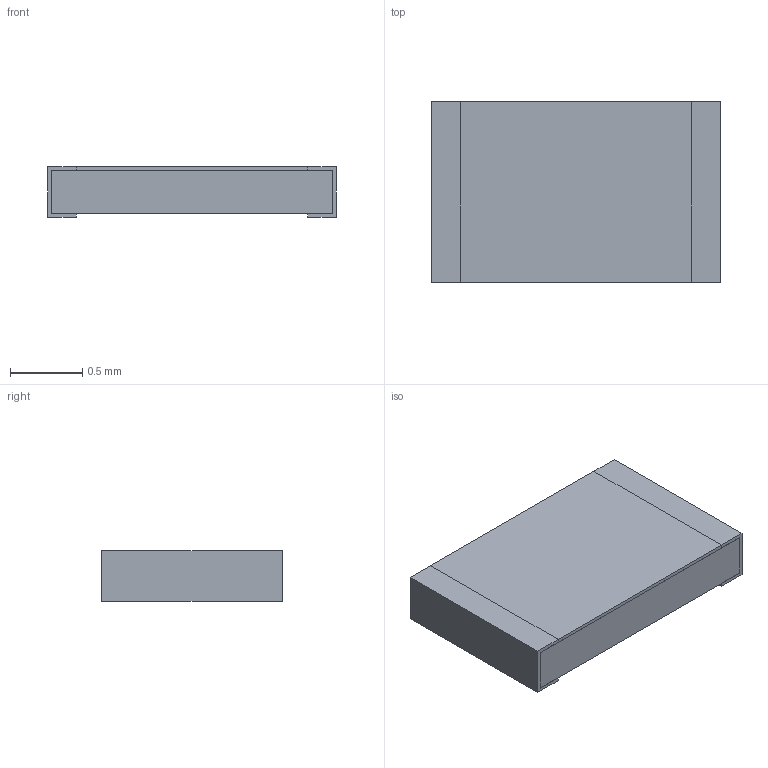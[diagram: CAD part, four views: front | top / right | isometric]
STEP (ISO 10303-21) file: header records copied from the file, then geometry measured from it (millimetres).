
FILE_DESCRIPTION(('STEP AP203'), '1');
FILE_NAME('栖闉罻', '', ('UNSPECIFIED'), ('UNSPECIFIED'), 'ASCON STEP Converter 1.6', 'ASCON Math Kernel', '');
FILE_SCHEMA(('CONFIG_CONTROL_DESIGN'));
Length unit declared in the file: millimetre
Assembly tree (1 placements, depth 2):
  (unnamed)
    (unnamed)
Bounding box: 2 x 1.25 x 0.35 mm (x, y, z)
Volume: 0.8 mm3; surface area: 14.8 mm2
Topology: 4 solids, 5 shells, 51 faces, 123 edges, 82 vertices
Faces by surface type: plane 47, cylinder 4
Entity records: 1987 total; most frequent: CARTESIAN_POINT 258, ORIENTED_EDGE 246, DIRECTION 237, EDGE_CURVE 123, LINE 115, VECTOR 115, VERTEX_POINT 82, AXIS2_PLACEMENT_3D 61
